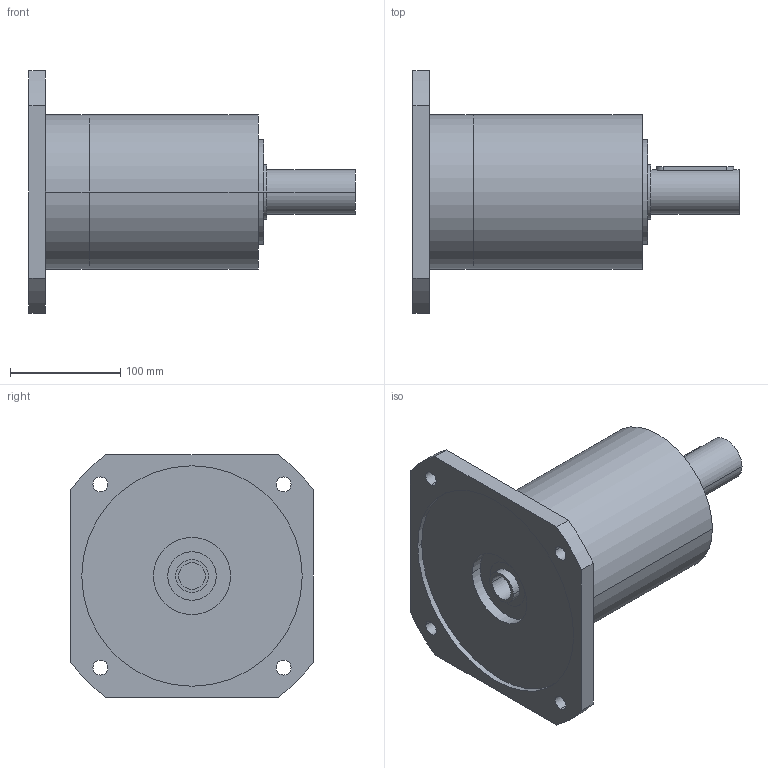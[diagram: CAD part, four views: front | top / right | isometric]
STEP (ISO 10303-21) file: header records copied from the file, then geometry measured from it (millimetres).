
FILE_DESCRIPTION(('CoCreate Modeling STEP Export'),'2;1');
FILE_NAME('GPR150_ig-9-12-16-20-28-35_40_B14_24_P12.stp','2014-08-19T17:03:36',(''),(''),'CoCreate Modeling STEP processor for AP214 (Solid Model)','CoCreate Modeling 16.00C 25-Feb-2009 (C) Parametric Technology GmbH','');
FILE_SCHEMA(('AUTOMOTIVE_DESIGN { 1 0 10303 214 1 1 1 1 }'));
Length unit declared in the file: millimetre
Products named in the file (2): GPR150_ig-9-12-16-20-28-35_40_B14_24_P12
Assembly tree (1 placements, depth 2):
  GPR150_ig-9-12-16-20-28-35_40_B14_24_P12
    GPR150_ig-9-12-16-20-28-35_40_B14_24_P12
Bounding box: 296 x 220 x 220 mm (x, y, z)
Volume: 3577678.6 mm3; surface area: 219691.6 mm2
Topology: 1 solids, 1 shells, 73 faces, 195 edges, 137 vertices
Faces by surface type: cylinder 44, plane 23, cone 6
Entity records: 2038 total; most frequent: CARTESIAN_POINT 396, ORIENTED_EDGE 386, DIRECTION 274, EDGE_CURVE 193, VERTEX_POINT 137, AXIS2_PLACEMENT_3D 103, EDGE_LOOP 96, FACE_OUTER_BOUND 73
